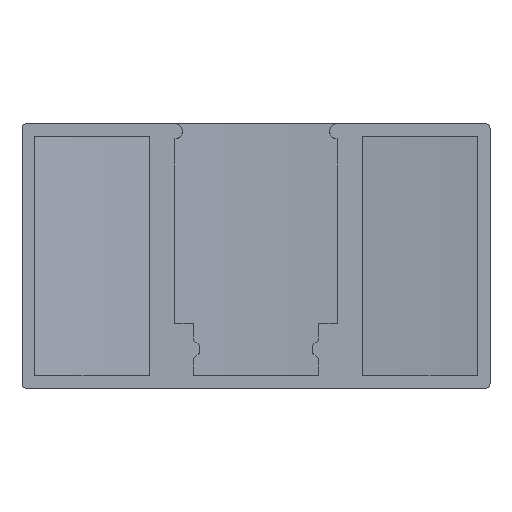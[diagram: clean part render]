
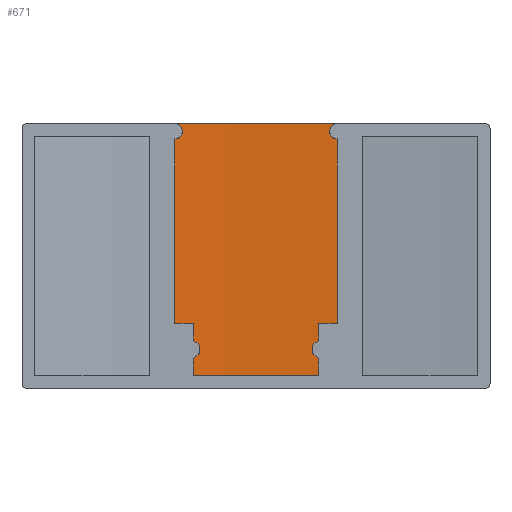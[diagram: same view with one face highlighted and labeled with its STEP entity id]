
A CAD part, top view. The second image highlights one B-rep face of the part: STEP entity #671.
In plain terms, the highlighted cylindrical face has radius 137.907 mm (diameter 275.814 mm), a partial arc.
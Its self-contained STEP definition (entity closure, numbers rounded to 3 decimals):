
#62 = DIRECTION ( 'NONE',  ( 0., -1., 0. ) ) ;
#67 = VERTEX_POINT ( 'NONE', #1752 ) ;
#87 = VERTEX_POINT ( 'NONE', #878 ) ;
#155 = VERTEX_POINT ( 'NONE', #945 ) ;
#158 = CARTESIAN_POINT ( 'NONE',  ( 11.15, 0., -5.049 ) ) ;
#160 = ORIENTED_EDGE ( 'NONE', *, *, #609, .T. ) ;
#191 = CARTESIAN_POINT ( 'NONE',  ( 0., 0., 132.407 ) ) ;
#319 = DIRECTION ( 'NONE',  ( 0., 1., 0. ) ) ;
#423 = DIRECTION ( 'NONE',  ( 0., 1., 0. ) ) ;
#557 = VERTEX_POINT ( 'NONE', #1691 ) ;
#609 = EDGE_CURVE ( 'NONE', #67, #87, #1122, .T. ) ;
#617 = CARTESIAN_POINT ( 'NONE',  ( 0., 0., 132.407 ) ) ;
#622 = CARTESIAN_POINT ( 'NONE',  ( -11.15, 0., -5.049 ) ) ;
#623 = ORIENTED_EDGE ( 'NONE', *, *, #1603, .F. ) ;
#628 = AXIS2_PLACEMENT_3D ( 'NONE', #1162, #62, #1187 ) ;
#635 = DIRECTION ( 'NONE',  ( 0., 1., 0. ) ) ;
#671 = ADVANCED_FACE ( 'NONE', ( #1321 ), #1744, .F. ) ;
#728 = EDGE_LOOP ( 'NONE', ( #160, #623, #1306, #1511 ) ) ;
#831 = AXIS2_PLACEMENT_3D ( 'NONE', #191, #882, #1455 ) ;
#878 = CARTESIAN_POINT ( 'NONE',  ( 11.15, 29.9, -5.049 ) ) ;
#882 = DIRECTION ( 'NONE',  ( 0., 1., 0. ) ) ;
#945 = CARTESIAN_POINT ( 'NONE',  ( -11.15, 29.9, -5.049 ) ) ;
#1015 = CIRCLE ( 'NONE', #831, 137.907 ) ;
#1029 = LINE ( 'NONE', #622, #1607 ) ;
#1122 = LINE ( 'NONE', #158, #1406 ) ;
#1162 = CARTESIAN_POINT ( 'NONE',  ( 0., 29.9, 132.407 ) ) ;
#1187 = DIRECTION ( 'NONE',  ( -0.081, 0., -0.997 ) ) ;
#1201 = DIRECTION ( 'NONE',  ( 1., 0., 0. ) ) ;
#1255 = CIRCLE ( 'NONE', #628, 137.907 ) ;
#1306 = ORIENTED_EDGE ( 'NONE', *, *, #1580, .F. ) ;
#1321 = FACE_OUTER_BOUND ( 'NONE', #728, .T. ) ;
#1406 = VECTOR ( 'NONE', #423, 1000. ) ;
#1455 = DIRECTION ( 'NONE',  ( 0.081, 0., -0.997 ) ) ;
#1511 = ORIENTED_EDGE ( 'NONE', *, *, #1592, .F. ) ;
#1580 = EDGE_CURVE ( 'NONE', #557, #155, #1029, .T. ) ;
#1592 = EDGE_CURVE ( 'NONE', #67, #557, #1015, .T. ) ;
#1603 = EDGE_CURVE ( 'NONE', #155, #87, #1255, .T. ) ;
#1607 = VECTOR ( 'NONE', #319, 1000. ) ;
#1612 = AXIS2_PLACEMENT_3D ( 'NONE', #617, #635, #1201 ) ;
#1691 = CARTESIAN_POINT ( 'NONE',  ( -11.15, 0., -5.049 ) ) ;
#1744 = CYLINDRICAL_SURFACE ( 'NONE', #1612, 137.907 ) ;
#1752 = CARTESIAN_POINT ( 'NONE',  ( 11.15, 0., -5.049 ) ) ;
